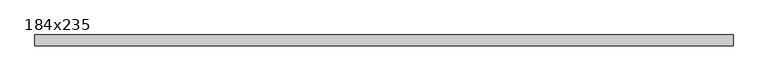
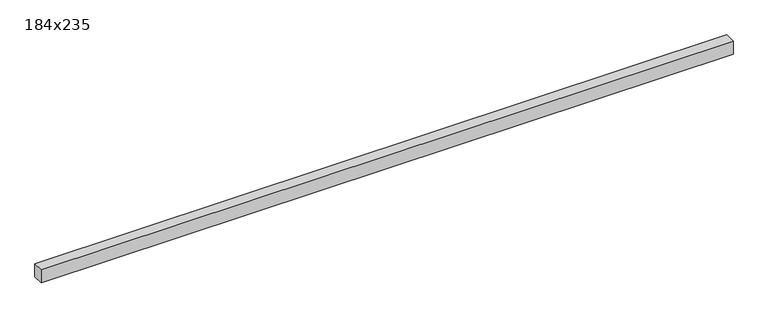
"""IFC4 building model written with IfcOpenShell, lengths in millimetres: beam geometry, Poutre - Bois d'oeuvre : 184x235."""

from ifc_helpers import new_model, si_unit, frame, origin, place, context, project, spatial, polyline, outline, extrude, source, transform, mapped, element, save


def beam_184x235_910cab54(model_context):
    return source(origin(), model_context, "Body", "SweptSolid", [
        extrude(outline(polyline([(5961.5, 95.25), (5961.5, -95.25), (-6057.5, -95.25), (-6057.5, 95.25), (5961.5, 95.25)])), frame((0.0, 0.0, -120.65), z_axis=(0.0, 0.0, 1.0), x_axis=(1.0, 0.0, 0.0)), (0.0, 0.0, 1.0), 241.3),
    ])


if __name__ == "__main__":
    model = new_model("IFC4")
    model_context = context("Model", 3, world=origin())
    ifc_project = project(units=[si_unit("LENGTHUNIT", "METRE", prefix="MILLI")], contexts=[model_context])
    site = spatial("IfcSite", under=ifc_project)
    building = spatial("IfcBuilding", under=site)
    placement = place(None, origin())
    beam_184x235_shape = beam_184x235_910cab54(model_context)
    element("IfcBeam", 1, ObjectType="Poutre - Bois d'oeuvre : 184x235", at=placement, inside=building, context=model_context, shape_type="MappedRepresentation", body=[
        mapped(beam_184x235_shape, transform((0.0, 0.0, 0.0), x_axis=(1.0, 0.0, 0.0), y_axis=(0.0, 1.0, 0.0), z_axis=(0.0, 0.0, 1.0))),
    ])
    save(model, "model.ifc")
